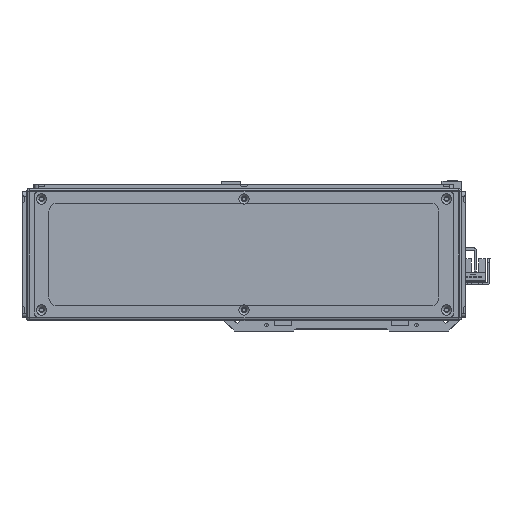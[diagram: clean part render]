
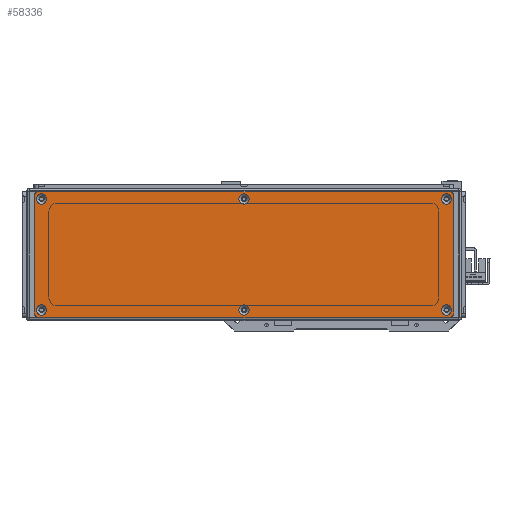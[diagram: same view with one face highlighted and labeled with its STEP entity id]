
A CAD part, front view. The second image highlights one B-rep face of the part: STEP entity #58336.
In plain terms, the highlighted planar face has unit normal (0, -1, 0).
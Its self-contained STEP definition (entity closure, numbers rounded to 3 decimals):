
#1859=FACE_BOUND('',#10743,.T.);
#1860=FACE_BOUND('',#10744,.T.);
#1861=FACE_BOUND('',#10745,.T.);
#1862=FACE_BOUND('',#10746,.T.);
#1863=FACE_BOUND('',#10747,.T.);
#1864=FACE_BOUND('',#10748,.T.);
#3896=PLANE('',#62790);
#7406=FACE_OUTER_BOUND('',#10742,.T.);
#10742=EDGE_LOOP('',(#54156,#54157,#54158,#54159,#54160,#54161,#54162,#54163));
#10743=EDGE_LOOP('',(#54164));
#10744=EDGE_LOOP('',(#54165));
#10745=EDGE_LOOP('',(#54166));
#10746=EDGE_LOOP('',(#54167));
#10747=EDGE_LOOP('',(#54168));
#10748=EDGE_LOOP('',(#54169));
#17161=LINE('',#96630,#23646);
#17162=LINE('',#96634,#23647);
#17163=LINE('',#96638,#23648);
#17164=LINE('',#96641,#23649);
#23646=VECTOR('',#77061,10.);
#23647=VECTOR('',#77064,10.);
#23648=VECTOR('',#77067,10.);
#23649=VECTOR('',#77070,10.);
#25151=CIRCLE('',#62758,3.45);
#25154=CIRCLE('',#62763,3.45);
#25157=CIRCLE('',#62768,3.45);
#25160=CIRCLE('',#62773,3.45);
#25163=CIRCLE('',#62778,3.45);
#25166=CIRCLE('',#62783,3.45);
#25169=CIRCLE('',#62788,3.);
#25171=CIRCLE('',#62791,3.);
#25172=CIRCLE('',#62792,3.);
#25173=CIRCLE('',#62793,3.);
#30439=VERTEX_POINT('',#96560);
#30442=VERTEX_POINT('',#96570);
#30445=VERTEX_POINT('',#96580);
#30448=VERTEX_POINT('',#96590);
#30451=VERTEX_POINT('',#96600);
#30454=VERTEX_POINT('',#96610);
#30457=VERTEX_POINT('',#96620);
#30458=VERTEX_POINT('',#96621);
#30461=VERTEX_POINT('',#96629);
#30462=VERTEX_POINT('',#96631);
#30463=VERTEX_POINT('',#96633);
#30464=VERTEX_POINT('',#96635);
#30465=VERTEX_POINT('',#96637);
#30466=VERTEX_POINT('',#96639);
#38404=EDGE_CURVE('',#30439,#30439,#25151,.T.);
#38409=EDGE_CURVE('',#30442,#30442,#25154,.T.);
#38414=EDGE_CURVE('',#30445,#30445,#25157,.T.);
#38419=EDGE_CURVE('',#30448,#30448,#25160,.T.);
#38424=EDGE_CURVE('',#30451,#30451,#25163,.T.);
#38429=EDGE_CURVE('',#30454,#30454,#25166,.T.);
#38434=EDGE_CURVE('',#30457,#30458,#25169,.T.);
#38438=EDGE_CURVE('',#30457,#30461,#17161,.T.);
#38439=EDGE_CURVE('',#30462,#30461,#25171,.T.);
#38440=EDGE_CURVE('',#30462,#30463,#17162,.T.);
#38441=EDGE_CURVE('',#30464,#30463,#25172,.T.);
#38442=EDGE_CURVE('',#30464,#30465,#17163,.T.);
#38443=EDGE_CURVE('',#30466,#30465,#25173,.T.);
#38444=EDGE_CURVE('',#30466,#30458,#17164,.T.);
#54156=ORIENTED_EDGE('',*,*,#38434,.F.);
#54157=ORIENTED_EDGE('',*,*,#38438,.T.);
#54158=ORIENTED_EDGE('',*,*,#38439,.F.);
#54159=ORIENTED_EDGE('',*,*,#38440,.T.);
#54160=ORIENTED_EDGE('',*,*,#38441,.F.);
#54161=ORIENTED_EDGE('',*,*,#38442,.T.);
#54162=ORIENTED_EDGE('',*,*,#38443,.F.);
#54163=ORIENTED_EDGE('',*,*,#38444,.T.);
#54164=ORIENTED_EDGE('',*,*,#38404,.T.);
#54165=ORIENTED_EDGE('',*,*,#38409,.T.);
#54166=ORIENTED_EDGE('',*,*,#38414,.T.);
#54167=ORIENTED_EDGE('',*,*,#38419,.T.);
#54168=ORIENTED_EDGE('',*,*,#38424,.T.);
#54169=ORIENTED_EDGE('',*,*,#38429,.T.);
#58336=ADVANCED_FACE('',(#7406,#1859,#1860,#1861,#1862,#1863,#1864),#3896,
 .T.);
#62758=AXIS2_PLACEMENT_3D('',#96561,#76981,#76982);
#62763=AXIS2_PLACEMENT_3D('',#96571,#76993,#76994);
#62768=AXIS2_PLACEMENT_3D('',#96581,#77005,#77006);
#62773=AXIS2_PLACEMENT_3D('',#96591,#77017,#77018);
#62778=AXIS2_PLACEMENT_3D('',#96601,#77029,#77030);
#62783=AXIS2_PLACEMENT_3D('',#96611,#77041,#77042);
#62788=AXIS2_PLACEMENT_3D('',#96622,#77053,#77054);
#62790=AXIS2_PLACEMENT_3D('',#96628,#77059,#77060);
#62791=AXIS2_PLACEMENT_3D('',#96632,#77062,#77063);
#62792=AXIS2_PLACEMENT_3D('',#96636,#77065,#77066);
#62793=AXIS2_PLACEMENT_3D('',#96640,#77068,#77069);
#76981=DIRECTION('center_axis',(0.,1.,0.));
#76982=DIRECTION('ref_axis',(1.,0.,0.));
#76993=DIRECTION('center_axis',(0.,1.,0.));
#76994=DIRECTION('ref_axis',(1.,0.,0.));
#77005=DIRECTION('center_axis',(0.,1.,0.));
#77006=DIRECTION('ref_axis',(1.,0.,0.));
#77017=DIRECTION('center_axis',(0.,1.,0.));
#77018=DIRECTION('ref_axis',(1.,0.,0.));
#77029=DIRECTION('center_axis',(0.,1.,0.));
#77030=DIRECTION('ref_axis',(1.,0.,0.));
#77041=DIRECTION('center_axis',(0.,1.,0.));
#77042=DIRECTION('ref_axis',(1.,0.,0.));
#77053=DIRECTION('center_axis',(0.,1.,0.));
#77054=DIRECTION('ref_axis',(-0.707,0.,0.707));
#77059=DIRECTION('center_axis',(0.,-1.,0.));
#77060=DIRECTION('ref_axis',(0.,0.,-1.));
#77061=DIRECTION('',(0.,0.,-1.));
#77062=DIRECTION('center_axis',(0.,1.,0.));
#77063=DIRECTION('ref_axis',(-0.707,0.,-0.707));
#77064=DIRECTION('',(1.,0.,0.));
#77065=DIRECTION('center_axis',(0.,1.,0.));
#77066=DIRECTION('ref_axis',(0.707,0.,-0.707));
#77067=DIRECTION('',(0.,0.,1.));
#77068=DIRECTION('center_axis',(0.,1.,0.));
#77069=DIRECTION('ref_axis',(0.707,0.,0.707));
#77070=DIRECTION('',(-1.,0.,0.));
#96560=CARTESIAN_POINT('',(131.55,-1.5,37.));
#96561=CARTESIAN_POINT('Origin',(135.,-1.5,37.));
#96570=CARTESIAN_POINT('',(-138.45,-1.5,-37.));
#96571=CARTESIAN_POINT('Origin',(-135.,-1.5,-37.));
#96580=CARTESIAN_POINT('',(-3.45,-1.5,37.));
#96581=CARTESIAN_POINT('Origin',(0.,-1.5,37.));
#96590=CARTESIAN_POINT('',(-3.45,-1.5,-37.));
#96591=CARTESIAN_POINT('Origin',(0.,-1.5,-37.));
#96600=CARTESIAN_POINT('',(-138.45,-1.5,37.));
#96601=CARTESIAN_POINT('Origin',(-135.,-1.5,37.));
#96610=CARTESIAN_POINT('',(131.55,-1.5,-37.));
#96611=CARTESIAN_POINT('Origin',(135.,-1.5,-37.));
#96620=CARTESIAN_POINT('',(-140.,-1.5,39.));
#96621=CARTESIAN_POINT('',(-137.,-1.5,42.));
#96622=CARTESIAN_POINT('Origin',(-137.,-1.5,39.));
#96628=CARTESIAN_POINT('Origin',(0.,-1.5,0.));
#96629=CARTESIAN_POINT('',(-140.,-1.5,-39.));
#96630=CARTESIAN_POINT('',(-140.,-1.5,42.));
#96631=CARTESIAN_POINT('',(-137.,-1.5,-42.));
#96632=CARTESIAN_POINT('Origin',(-137.,-1.5,-39.));
#96633=CARTESIAN_POINT('',(137.,-1.5,-42.));
#96634=CARTESIAN_POINT('',(-140.,-1.5,-42.));
#96635=CARTESIAN_POINT('',(140.,-1.5,-39.));
#96636=CARTESIAN_POINT('Origin',(137.,-1.5,-39.));
#96637=CARTESIAN_POINT('',(140.,-1.5,39.));
#96638=CARTESIAN_POINT('',(140.,-1.5,-42.));
#96639=CARTESIAN_POINT('',(137.,-1.5,42.));
#96640=CARTESIAN_POINT('Origin',(137.,-1.5,39.));
#96641=CARTESIAN_POINT('',(140.,-1.5,42.));
